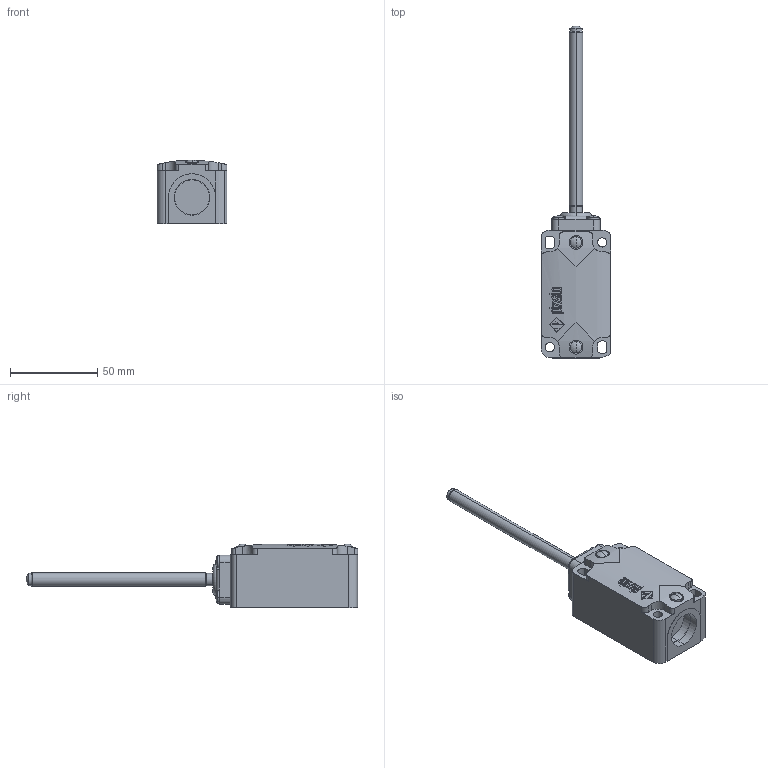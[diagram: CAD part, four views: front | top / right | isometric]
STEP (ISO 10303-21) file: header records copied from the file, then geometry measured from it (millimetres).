
FILE_DESCRIPTION (( 'STEP AP203' ), '1' );
FILE_NAME ('ZF_STEP_FD_x25.STEP', '2024-07-23T09:54:19', ( '' ), ( '' ), 'SwSTEP 2.0', 'SolidWorks 2023', '' );
FILE_SCHEMA (( 'CONFIG_CONTROL_DESIGN' ));
Length unit declared in the file: millimetre
Products named in the file (5): ZF_STEP_FD_x25; Pizzato_Custodia_FD_3dweb; Pizzato_T25; ZF_STEP_VF_T25; Pizzato_Custodia_FD
Assembly tree (4 placements, depth 3):
  ZF_STEP_FD_x25
    Pizzato_Custodia_FD_3dweb
      Pizzato_Custodia_FD
    ZF_STEP_VF_T25
      Pizzato_T25
Bounding box: 40 x 190.23 x 36.5 mm (x, y, z)
Volume: 105253.1 mm3; surface area: 22801.8 mm2
Topology: 2 solids, 2 shells, 431 faces, 1143 edges, 759 vertices
Faces by surface type: plane 219, bspline 109, cylinder 84, sphere 13, torus 6
Entity records: 18833 total; most frequent: CARTESIAN_POINT 8560, ORIENTED_EDGE 2280, DIRECTION 1564, EDGE_CURVE 1140, VERTEX_POINT 757, VECTOR 582, LINE 582, AXIS2_PLACEMENT_3D 491
